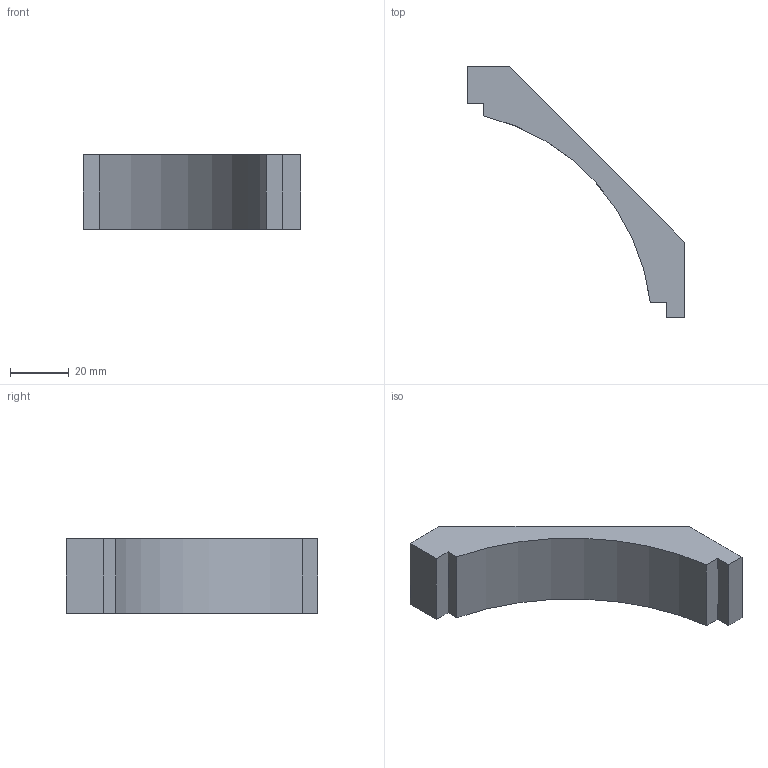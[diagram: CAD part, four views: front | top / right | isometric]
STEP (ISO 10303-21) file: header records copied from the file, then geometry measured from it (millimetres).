
FILE_DESCRIPTION (( 'STEP AP203' ), '1' );
FILE_NAME ('AB802-4FJ.STEP', '2023-08-25T14:20:06', ( '' ), ( '' ), 'SwSTEP 2.0', 'SolidWorks 2020', '' );
FILE_SCHEMA (( 'CONFIG_CONTROL_DESIGN' ));
Length unit declared in the file: inch
Products named in the file (1): AB802-4FJ
Bounding box: 74.3 x 85.72 x 25.4 mm (x, y, z)
Volume: 31788.3 mm3; surface area: 8987.1 mm2
Topology: 1 solids, 1 shells, 12 faces, 30 edges, 20 vertices
Faces by surface type: plane 11, cylinder 1
Entity records: 435 total; most frequent: CARTESIAN_POINT 63, ORIENTED_EDGE 60, DIRECTION 58, EDGE_CURVE 30, VECTOR 28, LINE 28, VERTEX_POINT 20, AXIS2_PLACEMENT_3D 15
